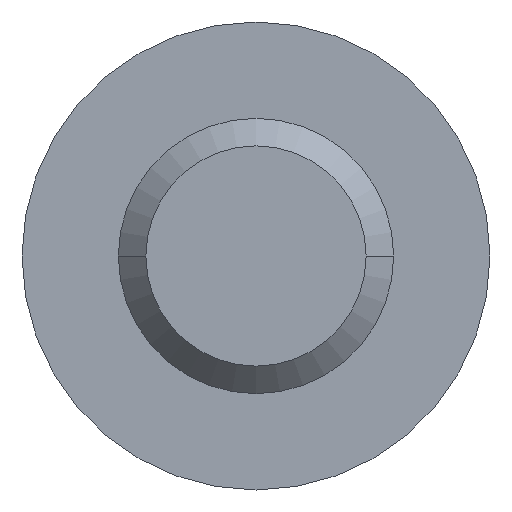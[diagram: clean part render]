
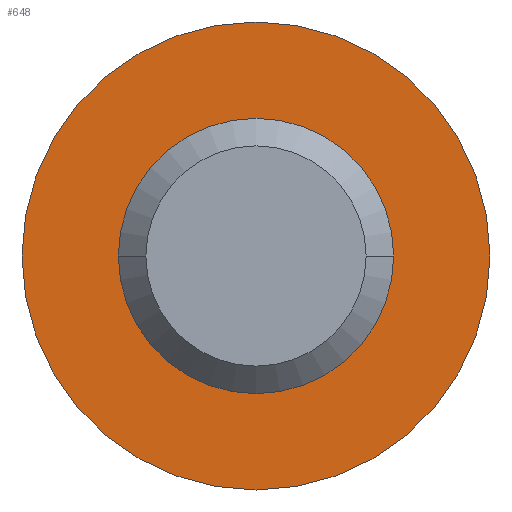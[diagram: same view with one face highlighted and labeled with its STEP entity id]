
A CAD part, front view. The second image highlights one B-rep face of the part: STEP entity #648.
In plain terms, the highlighted planar face has unit normal (0, -1, 0).
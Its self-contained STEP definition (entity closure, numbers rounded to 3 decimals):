
#8 = CIRCLE ( 'NONE', #106, 2.5 ) ;
#16 = VERTEX_POINT ( 'NONE', #421 ) ;
#35 = DIRECTION ( 'NONE',  ( 0., 1., 0. ) ) ;
#49 = CARTESIAN_POINT ( 'NONE',  ( 0., -5., 0. ) ) ;
#51 = ORIENTED_EDGE ( 'NONE', *, *, #375, .F. ) ;
#55 = PLANE ( 'NONE',  #630 ) ;
#88 = CARTESIAN_POINT ( 'NONE',  ( 0., -5., 0. ) ) ;
#106 = AXIS2_PLACEMENT_3D ( 'NONE', #88, #35, #733 ) ;
#115 = DIRECTION ( 'NONE',  ( -1., 0., 0. ) ) ;
#120 = DIRECTION ( 'NONE',  ( 0., 1., 0. ) ) ;
#123 = DIRECTION ( 'NONE',  ( -1., 0., 0. ) ) ;
#149 = AXIS2_PLACEMENT_3D ( 'NONE', #635, #174, #115 ) ;
#174 = DIRECTION ( 'NONE',  ( 0., 1., 0. ) ) ;
#190 = CIRCLE ( 'NONE', #610, 2.5 ) ;
#276 = EDGE_CURVE ( 'NONE', #423, #488, #8, .T. ) ;
#289 = CARTESIAN_POINT ( 'NONE',  ( -2.5, -5., 0. ) ) ;
#297 = CARTESIAN_POINT ( 'NONE',  ( 2.5, -5., 0. ) ) ;
#321 = VERTEX_POINT ( 'NONE', #497 ) ;
#336 = EDGE_LOOP ( 'NONE', ( #529, #51 ) ) ;
#351 = FACE_OUTER_BOUND ( 'NONE', #336, .T. ) ;
#375 = EDGE_CURVE ( 'NONE', #16, #321, #525, .T. ) ;
#389 = ORIENTED_EDGE ( 'NONE', *, *, #276, .T. ) ;
#394 = DIRECTION ( 'NONE',  ( -1., 0., 0. ) ) ;
#419 = FACE_BOUND ( 'NONE', #679, .T. ) ;
#421 = CARTESIAN_POINT ( 'NONE',  ( 4.25, -5., 0. ) ) ;
#423 = VERTEX_POINT ( 'NONE', #289 ) ;
#488 = VERTEX_POINT ( 'NONE', #297 ) ;
#497 = CARTESIAN_POINT ( 'NONE',  ( -4.25, -5., 0. ) ) ;
#525 = CIRCLE ( 'NONE', #704, 4.25 ) ;
#529 = ORIENTED_EDGE ( 'NONE', *, *, #636, .F. ) ;
#544 = ORIENTED_EDGE ( 'NONE', *, *, #561, .T. ) ;
#561 = EDGE_CURVE ( 'NONE', #488, #423, #190, .T. ) ;
#563 = DIRECTION ( 'NONE',  ( 0., 1., 0. ) ) ;
#585 = DIRECTION ( 'NONE',  ( 0., 1., 0. ) ) ;
#610 = AXIS2_PLACEMENT_3D ( 'NONE', #640, #585, #123 ) ;
#630 = AXIS2_PLACEMENT_3D ( 'NONE', #754, #120, #697 ) ;
#635 = CARTESIAN_POINT ( 'NONE',  ( 0., -5., 0. ) ) ;
#636 = EDGE_CURVE ( 'NONE', #321, #16, #668, .T. ) ;
#640 = CARTESIAN_POINT ( 'NONE',  ( 0., -5., 0. ) ) ;
#648 = ADVANCED_FACE ( 'Face2', ( #351, #419 ), #55, .F. ) ;
#668 = CIRCLE ( 'NONE', #149, 4.25 ) ;
#679 = EDGE_LOOP ( 'NONE', ( #389, #544 ) ) ;
#697 = DIRECTION ( 'NONE',  ( -1., 0., 0. ) ) ;
#704 = AXIS2_PLACEMENT_3D ( 'NONE', #49, #563, #394 ) ;
#733 = DIRECTION ( 'NONE',  ( -1., 0., 0. ) ) ;
#754 = CARTESIAN_POINT ( 'NONE',  ( 2.5, -5., 0. ) ) ;
